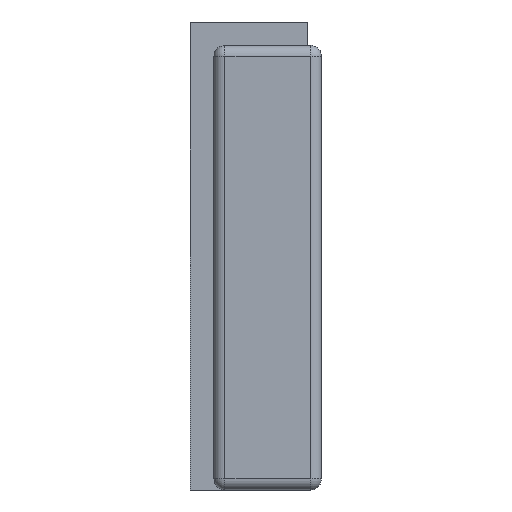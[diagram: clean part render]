
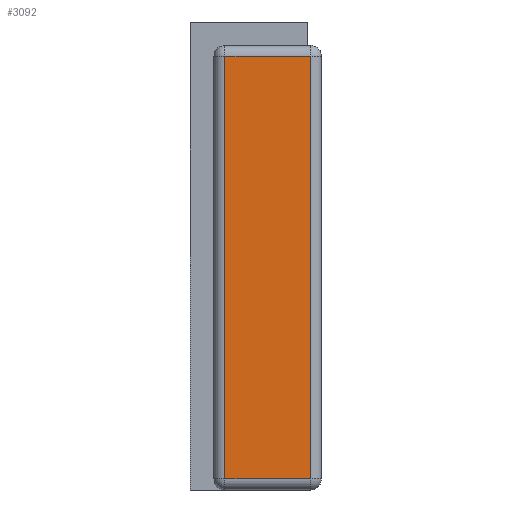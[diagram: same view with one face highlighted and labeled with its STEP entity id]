
A CAD part, left-side view. The second image highlights one B-rep face of the part: STEP entity #3092.
In plain terms, the highlighted planar face has unit normal (-1, 0, 0).
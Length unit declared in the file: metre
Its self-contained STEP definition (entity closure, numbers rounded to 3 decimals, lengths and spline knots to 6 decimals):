
#809=ORIENTED_EDGE('',*,*,#1450,.T.);
#810=ORIENTED_EDGE('',*,*,#1451,.T.);
#811=ORIENTED_EDGE('',*,*,#1452,.T.);
#812=ORIENTED_EDGE('',*,*,#1453,.T.);
#1450=EDGE_CURVE('',#1792,#1793,#2058,.T.);
#1451=EDGE_CURVE('',#1793,#1794,#2059,.T.);
#1452=EDGE_CURVE('',#1794,#1795,#2060,.F.);
#1453=EDGE_CURVE('',#1795,#1792,#2061,.F.);
#1792=VERTEX_POINT('',#5149);
#1793=VERTEX_POINT('',#5150);
#1794=VERTEX_POINT('',#5152);
#1795=VERTEX_POINT('',#5154);
#2058=LINE('',#5148,#2333);
#2059=LINE('',#5151,#2334);
#2060=LINE('',#5153,#2335);
#2061=LINE('',#5155,#2336);
#2333=VECTOR('',#4162,1.);
#2334=VECTOR('',#4163,1.);
#2335=VECTOR('',#4164,1.);
#2336=VECTOR('',#4165,1.);
#2535=EDGE_LOOP('',(#809,#810,#811,#812));
#2802=FACE_BOUND('',#2535,.T.);
#2975=PLANE('',#3399);
#3092=ADVANCED_FACE('',(#2802),#2975,.T.);
#3399=AXIS2_PLACEMENT_3D('',#5147,#4160,#4161);
#4160=DIRECTION('',(-1.,0.,0.));
#4161=DIRECTION('',(0.,0.,1.));
#4162=DIRECTION('',(0.,1.,0.));
#4163=DIRECTION('',(0.,0.,-1.));
#4164=DIRECTION('',(0.,1.,0.));
#4165=DIRECTION('',(0.,0.,-1.));
#5147=CARTESIAN_POINT('',(0.,0.007303,0.060325));
#5148=CARTESIAN_POINT('',(0.,0.007303,0.058825));
#5149=CARTESIAN_POINT('',(0.,0.0015,0.058825));
#5150=CARTESIAN_POINT('',(0.,0.013105,0.058825));
#5151=CARTESIAN_POINT('',(0.,0.013105,0.060325));
#5152=CARTESIAN_POINT('',(0.,0.013105,0.0015));
#5153=CARTESIAN_POINT('',(0.,0.,0.0015));
#5154=CARTESIAN_POINT('',(0.,0.0015,0.0015));
#5155=CARTESIAN_POINT('',(0.,0.0015,0.060325));
